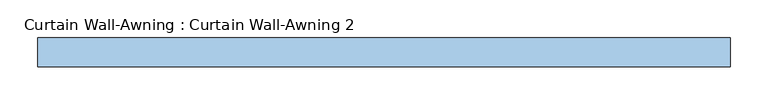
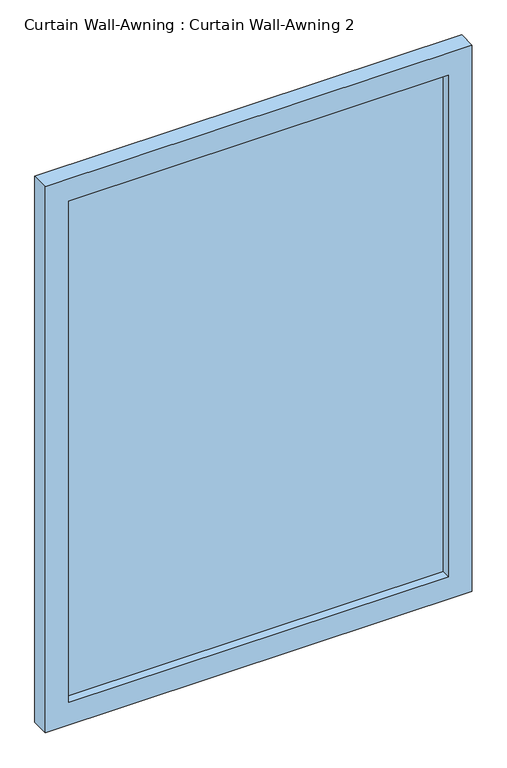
"""IFC4 building model written with IfcOpenShell, lengths in millimetres: window geometry, Curtain Wall-Awning : Curtain Wall-Awning 2."""

from ifc_helpers import new_model, si_unit, frame, origin, place, context, project, spatial, polyline, outline, extrude, source, transform, mapped, element, save


def curtain_wall_awning_curtain_wall_awning_2_3c4f30b6(model_context):
    return source(origin(), model_context, "Body", "SweptSolid", [
        extrude(outline(polyline([(406.291882, -19.05), (-406.291882, -19.05), (-406.291882, -6.35), (406.291882, -6.35), (406.291882, -19.05)])), frame((0.0, 0.0, 50.8), z_axis=(0.0, 0.0, 1.0), x_axis=(1.0, 0.0, 0.0)), (0.0, 0.0, 1.0), 1134.635445),
        extrude(outline(polyline([(1236.235445, -457.091882), (0.0, -457.091882), (0.0, 457.091882), (1236.235445, 457.091882), (1236.235445, -457.091882)]), holes=[polyline([(1185.435445, -406.291882), (1185.435445, 406.291882), (50.8, 406.291882), (50.8, -406.291882), (1185.435445, -406.291882)])]), frame((0.0, -38.1, 0.0), z_axis=(0.0, 1.0, 0.0), x_axis=(0.0, 0.0, 1.0)), (0.0, 0.0, 1.0), 38.1),
    ])


if __name__ == "__main__":
    model = new_model("IFC4")
    model_context = context("Model", 3, world=origin())
    ifc_project = project(units=[si_unit("LENGTHUNIT", "METRE", prefix="MILLI")], contexts=[model_context])
    site = spatial("IfcSite", under=ifc_project)
    building = spatial("IfcBuilding", under=site)
    placement = place(None, origin())
    curtain_wall_awning_curtain_wall_awning_2_shape = curtain_wall_awning_curtain_wall_awning_2_3c4f30b6(model_context)
    element("IfcWindow", 1, ObjectType="Curtain Wall-Awning : Curtain Wall-Awning 2", at=placement, inside=building, context=model_context, shape_type="MappedRepresentation", body=[
        mapped(curtain_wall_awning_curtain_wall_awning_2_shape, transform((0.0, 0.0, 0.0), x_axis=(1.0, 0.0, 0.0), y_axis=(0.0, 1.0, 0.0), z_axis=(0.0, 0.0, 1.0))),
    ])
    save(model, "model.ifc")
